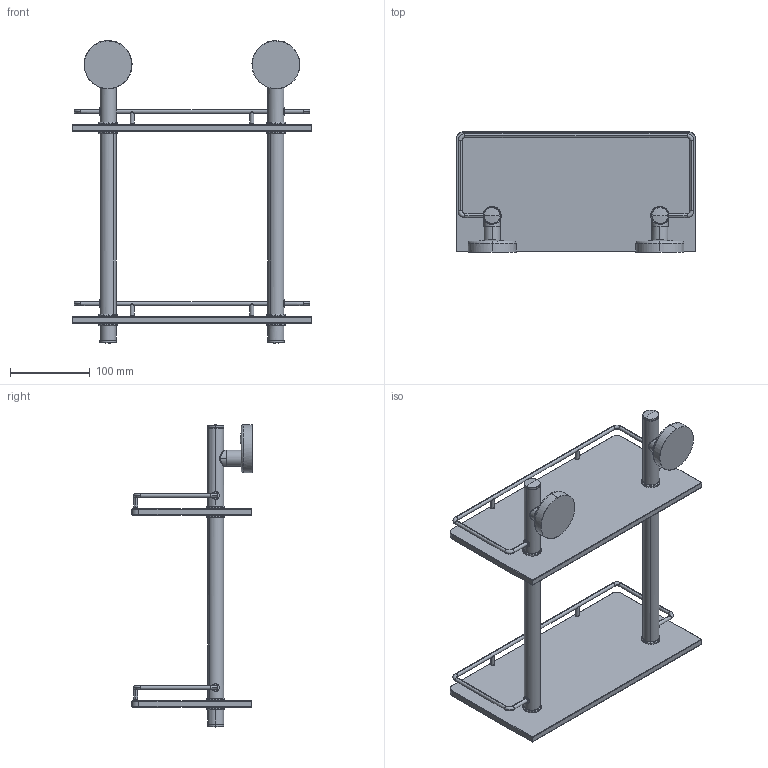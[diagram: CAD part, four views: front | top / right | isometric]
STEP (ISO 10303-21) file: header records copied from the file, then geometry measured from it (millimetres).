
FILE_DESCRIPTION(('THIS FILE CONTAINS SOME STEP INSTANCES'),'1');
FILE_NAME('ell_062.stp','2015-12-14T14:34:22',('UNDEFINED'),('UNDEFINED'),'T-FLEX CAD STEP converter','T-FLEX CAD','');
FILE_SCHEMA(('CONFIG_CONTROL_DESIGN'));
Length unit declared in the file: metre
Products named in the file (6): 砱鋋_23; 砱鋋_24; 3D 鐨飹懤艜_49
Bounding box: 300 x 150.9 x 378.4 mm (x, y, z)
Volume: 1058346.6 mm3; surface area: 281848.3 mm2
Topology: 6 solids, 10 shells, 410 faces, 998 edges, 612 vertices
Faces by surface type: cylinder 140, plane 74, bspline 70, cone 68, torus 50, sphere 8
Entity records: 31863 total; most frequent: CARTESIAN_POINT 23979, ORIENTED_EDGE 1948, DIRECTION 1184, EDGE_CURVE 974, VERTEX_POINT 612, AXIS2_PLACEMENT_3D 462, EDGE_LOOP 446, ADVANCED_FACE 410
